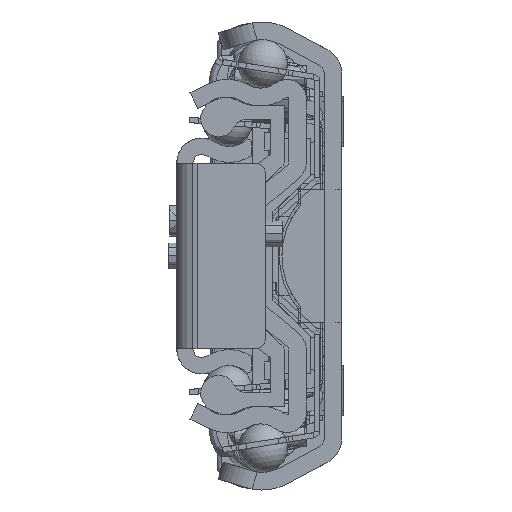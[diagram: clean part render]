
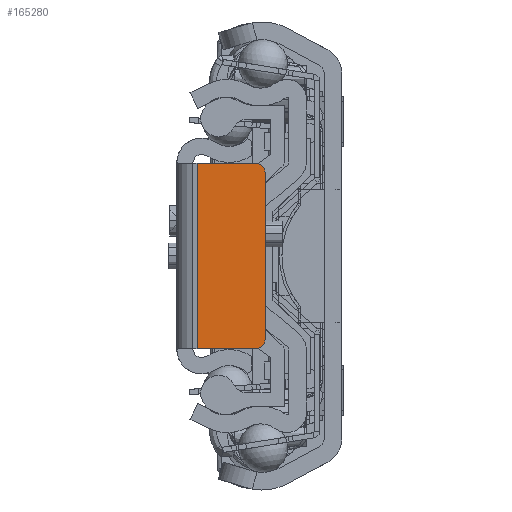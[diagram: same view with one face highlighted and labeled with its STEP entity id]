
A CAD part, left-side view. The second image highlights one B-rep face of the part: STEP entity #165280.
In plain terms, the highlighted planar face has unit normal (-1, 0, 0).
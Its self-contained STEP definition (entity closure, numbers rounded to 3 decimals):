
#160594=DIRECTION('',(0.,-1.,0.));
#160595=VECTOR('',#160594,6.7);
#160596=CARTESIAN_POINT('',(0.,-2.3,10.5));
#160597=LINE('',#160596,#160595);
#161455=DIRECTION('',(0.,-1.,0.));
#161456=VECTOR('',#161455,6.7);
#161457=CARTESIAN_POINT('',(0.,-2.3,-10.5));
#161458=LINE('',#161457,#161456);
#161459=CARTESIAN_POINT('',(0.,-9.,9.5));
#161460=DIRECTION('',(-1.,0.,0.));
#161461=DIRECTION('',(0.,-1.,0.));
#161462=AXIS2_PLACEMENT_3D('',#161459,#161460,#161461);
#161464=CARTESIAN_POINT('',(0.,-9.,-9.5));
#161465=DIRECTION('',(-1.,0.,0.));
#161466=DIRECTION('',(0.,0.,-1.));
#161467=AXIS2_PLACEMENT_3D('',#161464,#161465,#161466);
#161469=DIRECTION('',(0.,0.,1.));
#161470=VECTOR('',#161469,21.);
#161471=CARTESIAN_POINT('',(0.,-2.3,-10.5));
#161472=LINE('',#161471,#161470);
#161481=DIRECTION('',(0.,0.,1.));
#161482=VECTOR('',#161481,19.);
#161483=CARTESIAN_POINT('',(0.,-10.,-9.5));
#161484=LINE('',#161483,#161482);
#163804=CARTESIAN_POINT('',(0.,-2.3,-10.5));
#163805=CARTESIAN_POINT('',(0.,-2.3,10.5));
#163806=VERTEX_POINT('',#163804);
#163807=VERTEX_POINT('',#163805);
#163829=CARTESIAN_POINT('',(0.,-10.,9.5));
#163830=VERTEX_POINT('',#163829);
#163831=CARTESIAN_POINT('',(0.,-9.,10.5));
#163832=VERTEX_POINT('',#163831);
#163833=CARTESIAN_POINT('',(0.,-9.,-10.5));
#163834=CARTESIAN_POINT('',(0.,-10.,-9.5));
#163835=VERTEX_POINT('',#163833);
#163836=VERTEX_POINT('',#163834);
#165265=CARTESIAN_POINT('',(0.,-2.3,-10.5));
#165266=DIRECTION('',(-1.,0.,0.));
#165267=DIRECTION('',(0.,-1.,0.));
#165268=AXIS2_PLACEMENT_3D('',#165265,#165266,#165267);
#165269=PLANE('',#165268);
#165270=ORIENTED_EDGE('',*,*,#164770,.F.);
#165272=ORIENTED_EDGE('',*,*,#165271,.F.);
#165273=ORIENTED_EDGE('',*,*,#165256,.F.);
#165274=ORIENTED_EDGE('',*,*,#165246,.F.);
#165276=ORIENTED_EDGE('',*,*,#165275,.T.);
#165277=ORIENTED_EDGE('',*,*,#164747,.T.);
#165278=EDGE_LOOP('',(#165270,#165272,#165273,#165274,#165276,#165277));
#165279=FACE_OUTER_BOUND('',#165278,.F.);
#161463=CIRCLE('',#161462,1.);
#161468=CIRCLE('',#161467,1.);
#164747=EDGE_CURVE('',#163807,#163832,#160597,.T.);
#164770=EDGE_CURVE('',#163830,#163832,#161463,.T.);
#165246=EDGE_CURVE('',#163806,#163835,#161458,.T.);
#165256=EDGE_CURVE('',#163835,#163836,#161468,.T.);
#165271=EDGE_CURVE('',#163836,#163830,#161484,.T.);
#165275=EDGE_CURVE('',#163806,#163807,#161472,.T.);
#165280=ADVANCED_FACE('',(#165279),#165269,.T.);
